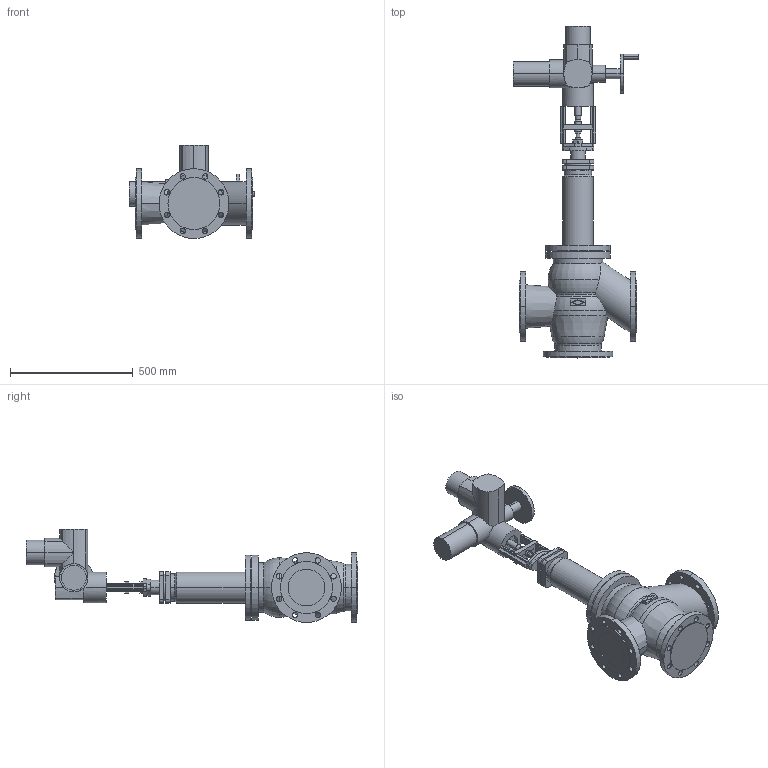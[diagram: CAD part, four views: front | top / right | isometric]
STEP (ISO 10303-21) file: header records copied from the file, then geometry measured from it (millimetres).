
FILE_DESCRIPTION(('OneSpaceDesigner STEP Export'),'2;1');
FILE_NAME('c000003199.stp','2007-01-26T13:19:04',(''),(''),'OneSpace Designer STEP processor for AP214 (Solid Model)','OneSpace Designer 14.00B 27-May-2006 (C) CoCreate Software GmbH','');
FILE_SCHEMA(('AUTOMOTIVE_DESIGN { 1 0 10303 214 1 1 1 1 }'));
Length unit declared in the file: millimetre
Products named in the file (2): 1; 2
Bounding box: 514 x 1354.2 x 379.5 mm (x, y, z)
Volume: 41376337.8 mm3; surface area: 1561516 mm2
Topology: 2 solids, 2 shells, 365 faces, 930 edges, 594 vertices
Faces by surface type: cylinder 178, plane 161, torus 16, cone 10
Entity records: 10612 total; most frequent: CARTESIAN_POINT 2313, ORIENTED_EDGE 1860, DIRECTION 1548, EDGE_CURVE 930, VERTEX_POINT 594, AXIS2_PLACEMENT_3D 541, VECTOR 466, LINE 466
